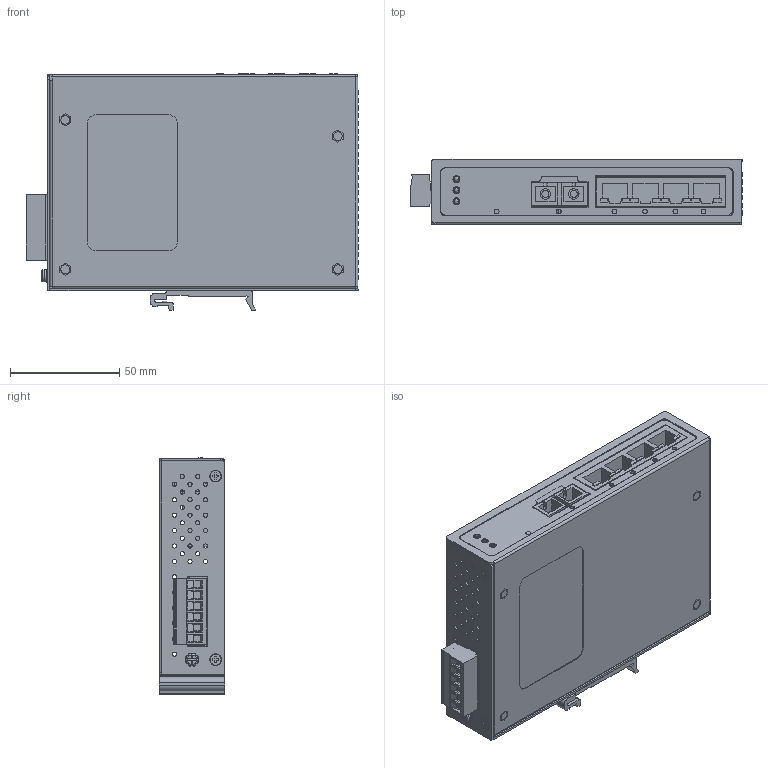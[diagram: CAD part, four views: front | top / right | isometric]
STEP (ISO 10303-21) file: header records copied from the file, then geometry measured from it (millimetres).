
FILE_DESCRIPTION( ( '' ), ' ' );
FILE_NAME( '/vol/tmp/translate-16295059471646910730/5e7a808c82db9011a2a8ad26.step', '2020-03-24T21:50:05', ( '' ), ( '' ), ' ', ' ', ' ' );
FILE_SCHEMA( ( 'AUTOMOTIVE_DESIGN { 1 0 10303 214 1 1 1 1 }' ) );
Length unit declared in the file: metre
Products named in the file (165): PRT0001; PRT0002_3; PRT0002_2; PRT0002_1; PRT0002; PRT0003; PRT0006; PRT0004; PRT0005; PRT0007; PRT0008; PRT0009_9; PRT0009_8; PRT0009_7; PRT0009_6; PRT0009_5; PRT0009_4; PRT0009_3; PRT0010; PRT0009_2; PRT0009_1; PRT0009; PRT0011; PRT0012; PRT0013
Bounding box: 151.96 x 30 x 108.16 mm (x, y, z)
Volume: 27528.1 mm3; surface area: 118230.9 mm2
Topology: 21 solids, 747 shells, 1882 faces, 6638 edges, 5378 vertices
Faces by surface type: plane 1122, cylinder 595, torus 77, cone 51, sphere 33, revolution 2, bspline 2
Full cylindrical faces by diameter (mm): 0.609 x1, 1.3 x11, 1.4 x6, 1.5 x1, 1.9 x111, 2 x20, 2.2 x8, 2.3 x1, 2.449 x4, 2.459 x4, 2.5 x1, 2.8 x10, 2.9 x8, 3 x13, 3.2 x5, 3.5 x7, 3.78 x4, 3.783 x6, 3.99 x8, 4 x28, 4.2 x13, 4.8 x2, 5 x10, 5.5 x1
Entity records: 88687 total; most frequent: CARTESIAN_POINT 16951, DIRECTION 12008, ORIENTED_EDGE 8724, EDGE_CURVE 6040, VERTEX_POINT 5167, AXIS2_PLACEMENT_3D 4051, LINE 3904, VECTOR 3904
